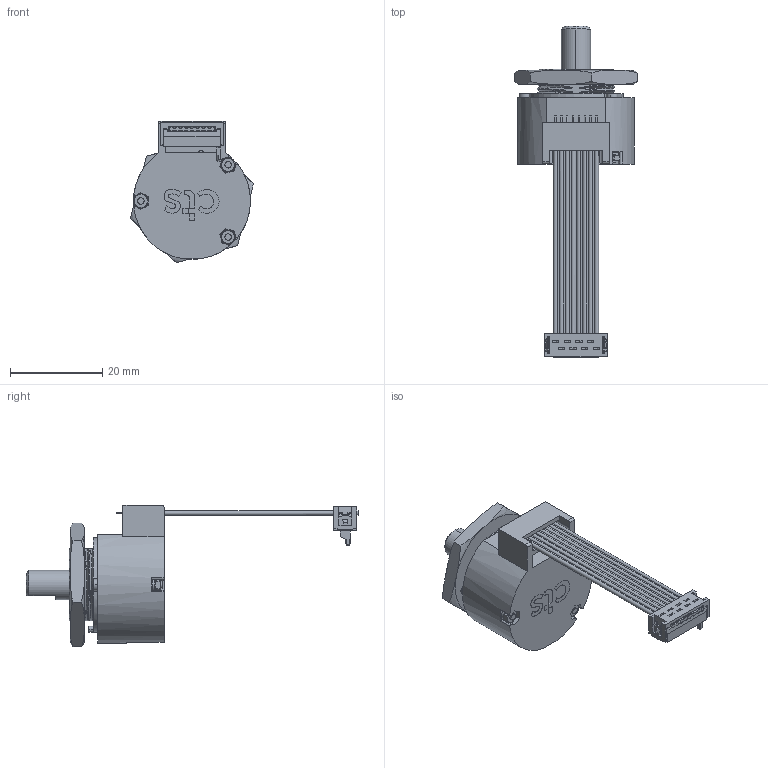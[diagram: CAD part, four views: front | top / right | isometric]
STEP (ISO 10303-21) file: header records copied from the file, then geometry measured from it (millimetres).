
FILE_DESCRIPTION(('Creo Elements/Direct Modeling STEP Export'),'2;1');
FILE_NAME('293_cable.stp','2013-04-07T23:43:02',(''),(''),'Creo Elements/Direct Modeling STEP processor for AP214 (Solid Model)','Creo Elements/Direct Modeling 18.1C 24-Feb-2013 (C) Parametric Technology GmbH','');
FILE_SCHEMA(('AUTOMOTIVE_DESIGN { 1 0 10303 214 1 1 1 1 }'));
Length unit declared in the file: millimetre
Products named in the file (4): 293-25-001_0.PRT.1; 293-50-002_0.PRT
Assembly tree (2 placements, depth 2):
  293-25-001_0.PRT.1
    293-25-001_0.PRT.1
  293-50-002_0.PRT
    293-50-002_0.PRT
Bounding box: 26.7 x 72.1 x 30.72 mm (x, y, z)
Volume: 901.8 mm3; surface area: 7639.7 mm2
Topology: 23 solids, 24 shells, 1091 faces, 3138 edges, 2077 vertices
Faces by surface type: plane 719, cylinder 293, bspline 42, torus 24, cone 10, sphere 3
Entity records: 39440 total; most frequent: CARTESIAN_POINT 11403, ORIENTED_EDGE 6290, DIRECTION 5258, EDGE_CURVE 3137, VERTEX_POINT 2077, VECTOR 2026, LINE 2026, AXIS2_PLACEMENT_3D 1616
